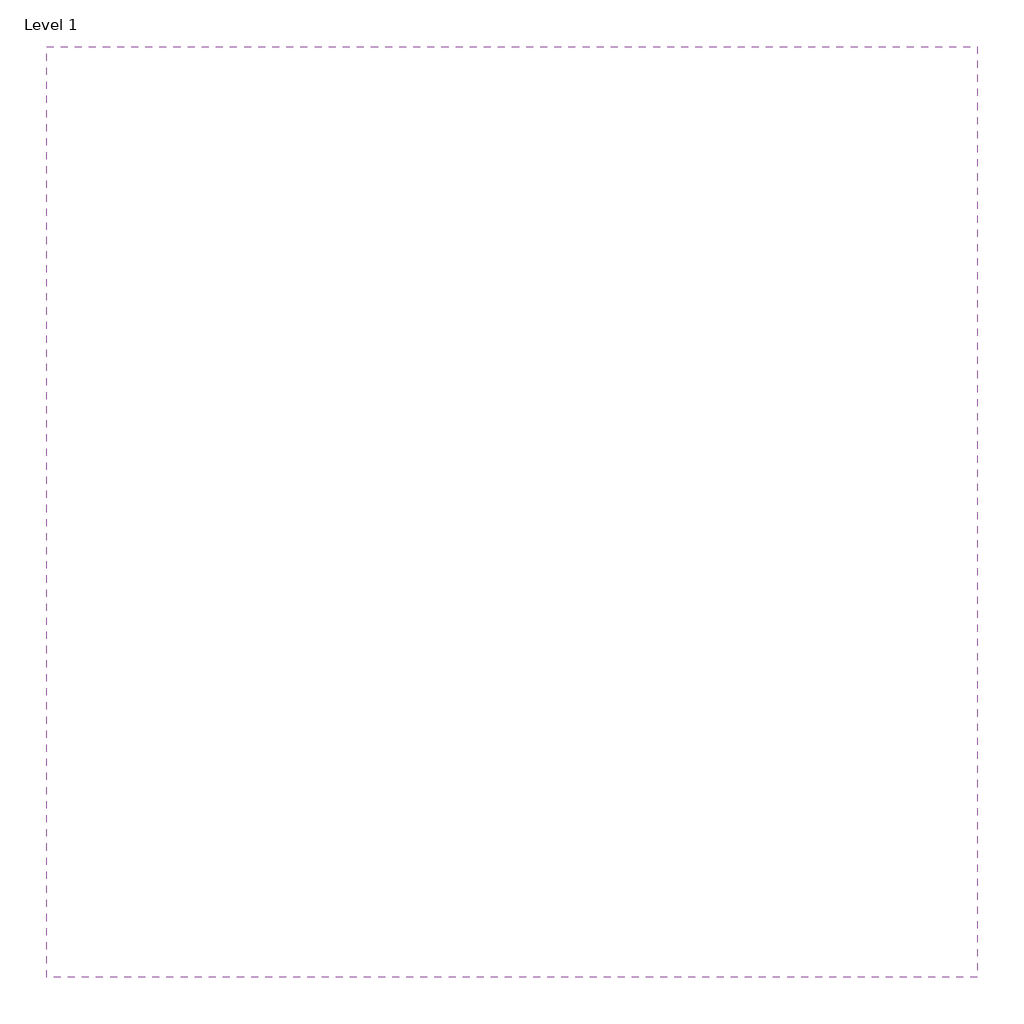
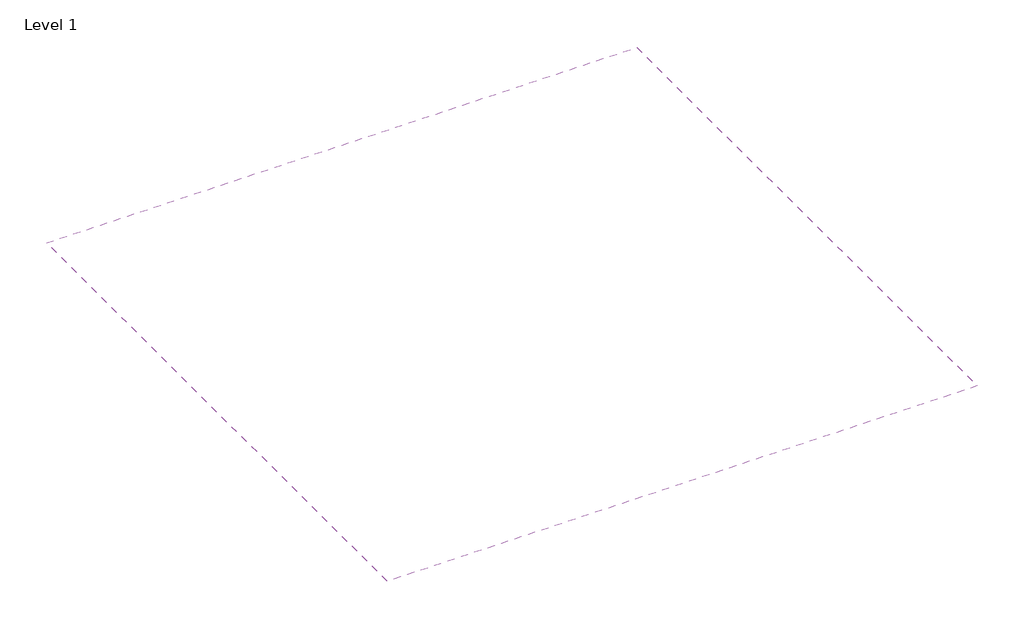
# One storey: 1 covering.
"""IFC4 building model written with IfcOpenShell, lengths in millimetres."""

from ifc_helpers import new_model, si_unit, frame, origin, place, context, project, spatial, polyline, outline, extrude, element, save

model = new_model("IFC4")

# Units and contexts
model_context = context("Model", 3, world=origin())
ifc_project = project(units=[si_unit("LENGTHUNIT", "METRE", prefix="MILLI")], contexts=[model_context])

# Site, building, storey
site = spatial("IfcSite", under=ifc_project)
building = spatial("IfcBuilding", under=site)
storey = spatial("IfcBuildingStorey", under=building, Name="Level 1", Elevation=0.0)

# Covering
placement = place(None, origin())
element("IfcCovering", 1, ObjectType="2x4 Fine Fissure Open Plan 1755 Armstrong", at=placement, inside=storey, context=model_context, shape_type="SweptSolid", body=[
    extrude(outline(polyline([(3010.4811584, 9336.3559943), (3010.4811584, -5294.0440057), (-11619.9188416, -5294.0440057), (-11619.9188416, 9336.3559943), (3010.4811584, 9336.3559943)])), frame((0.0, 0.0, 2438.4), z_axis=(0.0, 0.0, 1.0), x_axis=(1.0, 0.0, 0.0)), (0.0, 0.0, 1.0), 22.225),
])

save(model, "model.ifc")
